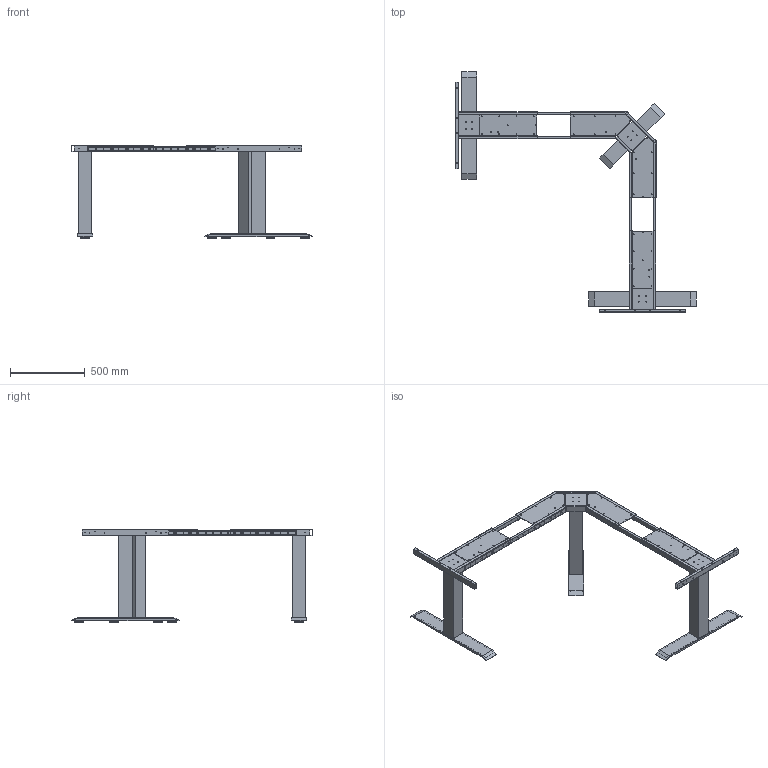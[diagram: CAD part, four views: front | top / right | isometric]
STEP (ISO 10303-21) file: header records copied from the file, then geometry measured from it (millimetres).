
FILE_DESCRIPTION( ( 'STEP AP214' ), '1' );
FILE_NAME( 'C:/Users/swati/Desktop/3D_check/legdrive/QC/9193255/9193255.stp', ' ', ( ' ' ), ( ' ' ), 'PSStep 15.0.47', 'PARTsolutions', ' ' );
FILE_SCHEMA( ( 'AUTOMOTIVE_DESIGN { 1 0 10303 214 1 1 1 1 }' ) );
Length unit declared in the file: millimetre
Products named in the file (7): 95 ; _
Assembly tree (13 placements, depth 2):
  95 
    _  x2
    _  x3
    _  x2
    _  x4
    _
    _
Bounding box: 1610 x 1610 x 620.5 mm (x, y, z)
Volume: 20191980.2 mm3; surface area: 3496155.4 mm2
Topology: 13 solids, 13 shells, 549 faces, 1591 edges, 1086 vertices
Faces by surface type: plane 306, cylinder 243
Full cylindrical faces by diameter (mm): 4 x102, 5.5 x16, 6 x64, 6.5 x37, 6.7 x12, 10 x6, 60 x6
Entity records: 12580 total; most frequent: CARTESIAN_POINT 1651, DIRECTION 1646, ORIENTED_EDGE 1492, EDGE_CURVE 746, EDGE_LOOP 696, VERTEX_POINT 580, AXIS2_PLACEMENT_3D 575, LINE 496
